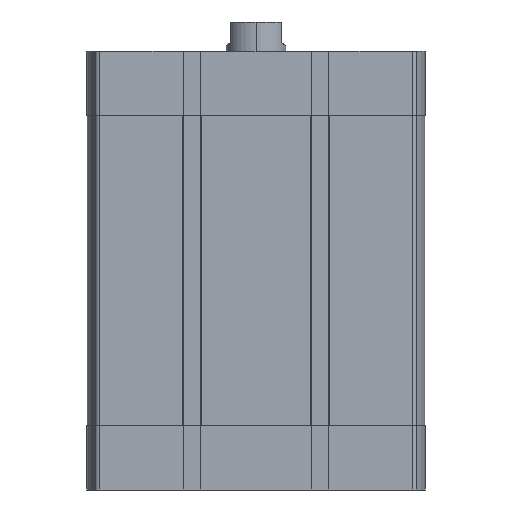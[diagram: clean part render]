
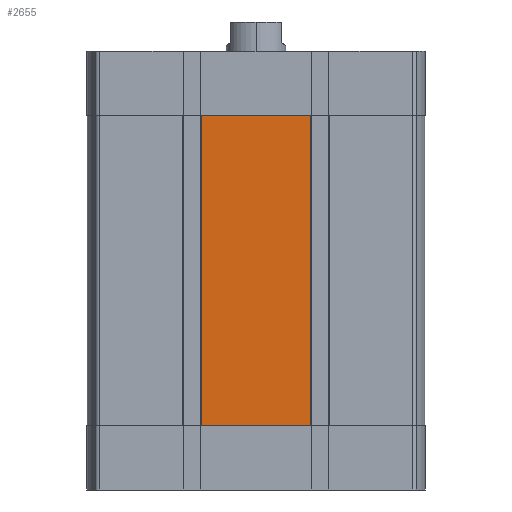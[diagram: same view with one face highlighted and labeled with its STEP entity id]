
A CAD part, left-side view. The second image highlights one B-rep face of the part: STEP entity #2655.
In plain terms, the highlighted planar face has unit normal (-1, 0, 0).
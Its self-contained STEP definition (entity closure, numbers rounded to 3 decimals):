
#46 = CARTESIAN_POINT ( 'NONE',  ( -56.5, 18.345, -21.5 ) ) ;
#759 = AXIS2_PLACEMENT_3D ( 'NONE', #7602, #16973, #13877 ) ;
#1048 = VECTOR ( 'NONE', #3817, 1000. ) ;
#1166 = CARTESIAN_POINT ( 'NONE',  ( -56.5, 18.345, -125.5 ) ) ;
#1187 = CARTESIAN_POINT ( 'NONE',  ( -56.5, 18.345, -21.5 ) ) ;
#1522 = CARTESIAN_POINT ( 'NONE',  ( -56.5, -18.345, -21.5 ) ) ;
#1690 = VECTOR ( 'NONE', #5985, 1000. ) ;
#2655 = ADVANCED_FACE ( 'NONE', ( #18522 ), #4430, .T. ) ;
#3382 = EDGE_CURVE ( 'NONE', #3406, #14565, #8723, .T. ) ;
#3406 = VERTEX_POINT ( 'NONE', #46 ) ;
#3817 = DIRECTION ( 'NONE',  ( 0., 0., 1. ) ) ;
#4430 = PLANE ( 'NONE',  #759 ) ;
#5020 = VERTEX_POINT ( 'NONE', #13575 ) ;
#5244 = LINE ( 'NONE', #17600, #1048 ) ;
#5985 = DIRECTION ( 'NONE',  ( 0., -1., 0. ) ) ;
#6285 = VECTOR ( 'NONE', #13730, 1000. ) ;
#7271 = EDGE_LOOP ( 'NONE', ( #18778, #16716, #11644, #7407 ) ) ;
#7289 = EDGE_CURVE ( 'NONE', #5020, #15062, #18257, .T. ) ;
#7407 = ORIENTED_EDGE ( 'NONE', *, *, #9068, .T. ) ;
#7602 = CARTESIAN_POINT ( 'NONE',  ( -56.5, 18.345, -125.5 ) ) ;
#8459 = LINE ( 'NONE', #16165, #15074 ) ;
#8723 = LINE ( 'NONE', #1187, #6285 ) ;
#9068 = EDGE_CURVE ( 'NONE', #15062, #14565, #8459, .T. ) ;
#11608 = CARTESIAN_POINT ( 'NONE',  ( -56.5, -18.345, -125.5 ) ) ;
#11644 = ORIENTED_EDGE ( 'NONE', *, *, #7289, .T. ) ;
#13575 = CARTESIAN_POINT ( 'NONE',  ( -56.5, 18.345, -125.5 ) ) ;
#13730 = DIRECTION ( 'NONE',  ( 0., -1., 0. ) ) ;
#13877 = DIRECTION ( 'NONE',  ( 0., 0., 1. ) ) ;
#14279 = EDGE_CURVE ( 'NONE', #5020, #3406, #5244, .T. ) ;
#14514 = DIRECTION ( 'NONE',  ( 0., 0., 1. ) ) ;
#14565 = VERTEX_POINT ( 'NONE', #1522 ) ;
#15062 = VERTEX_POINT ( 'NONE', #11608 ) ;
#15074 = VECTOR ( 'NONE', #14514, 1000. ) ;
#16165 = CARTESIAN_POINT ( 'NONE',  ( -56.5, -18.345, -125.5 ) ) ;
#16716 = ORIENTED_EDGE ( 'NONE', *, *, #14279, .F. ) ;
#16973 = DIRECTION ( 'NONE',  ( -1., 0., 0. ) ) ;
#17600 = CARTESIAN_POINT ( 'NONE',  ( -56.5, 18.345, -125.5 ) ) ;
#18257 = LINE ( 'NONE', #1166, #1690 ) ;
#18522 = FACE_OUTER_BOUND ( 'NONE', #7271, .T. ) ;
#18778 = ORIENTED_EDGE ( 'NONE', *, *, #3382, .F. ) ;
